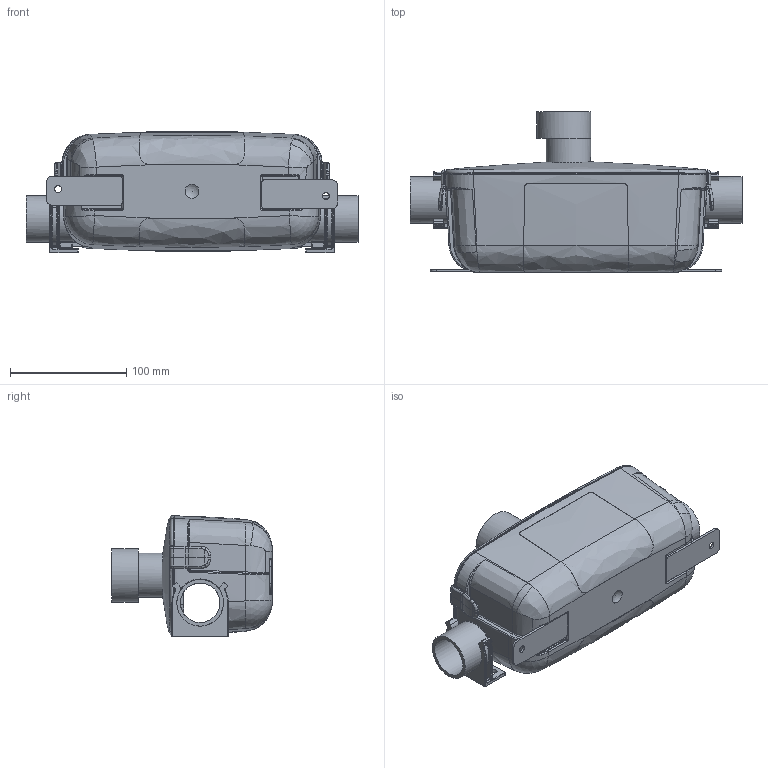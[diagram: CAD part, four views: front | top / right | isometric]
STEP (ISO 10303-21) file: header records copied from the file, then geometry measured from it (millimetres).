
FILE_DESCRIPTION (( 'STEP AP214' ), '1' );
FILE_NAME ('Sanineutrale.STEP', '2018-11-09T15:39:06', ( 'VHUMBERT' ), ( '' ), 'SwSTEP 2.0', 'SolidWorks 2018', '' );
FILE_SCHEMA (( 'AUTOMOTIVE_DESIGN' ));
Length unit declared in the file: inch
Products named in the file (1): Sanineutrale
Bounding box: 285 x 138 x 104.04 mm (x, y, z)
Volume: 348411.6 mm3; surface area: 220793.6 mm2
Topology: 1 solids, 1 shells, 1035 faces, 2533 edges, 1413 vertices
Faces by surface type: bspline 420, cylinder 305, plane 169, sphere 74, torus 36, cone 31
Full cylindrical faces by diameter (mm): 6 x2, 19 x1, 32 x1, 34 x2, 38 x1, 40 x3, 46 x1
Entity records: 59598 total; most frequent: CARTESIAN_POINT 26327, ORIENTED_EDGE 4758, DIRECTION 3404, EDGE_CURVE 2379, VERTEX_POINT 1374, AXIS2_PLACEMENT_3D 1371, EDGE_LOOP 1063, FACE_OUTER_BOUND 1038
